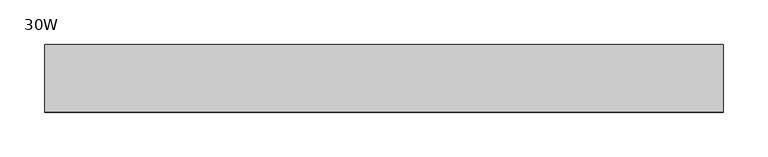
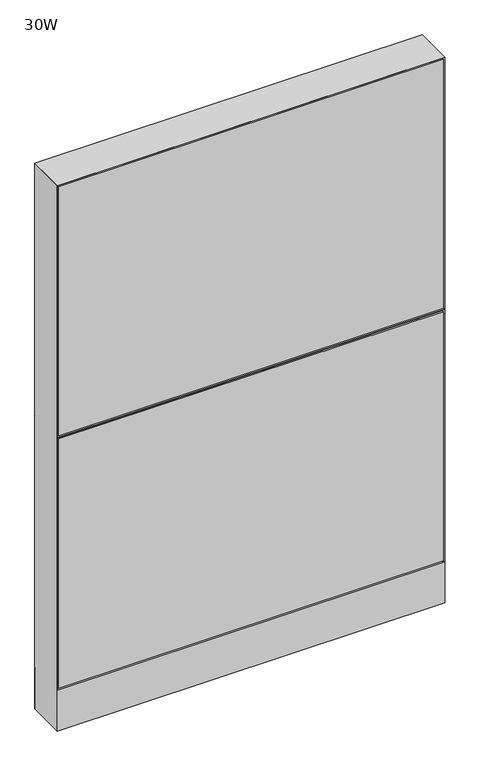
"""IFC4 building model written with IfcOpenShell, lengths in millimetres: furniture geometry, Steelcase - Montage - Frame - 45H - Enhanced Monolithic - Base Cavity : 30W."""

from ifc_helpers import new_model, si_unit, point, frame, frame_2d, origin, origin_with_axes, place, context, project, spatial, polyline, circle_curve, trimmed, segment, composite_curve, outline, extrude, faceted_brep, source, transform, mapped, element, save


def furniture_30w_7b13c61c(model_context):
    return source(origin(), model_context, "Body", "SolidModel", [
        faceted_brep([(-5.4e-06, 38.102627, 612.7750027), (6.3499917, 31.7526299, 619.1249997), (755.6500047, 31.7526299, 619.1249997), (762.0, 38.1026253, 612.7750044), (755.6500047, 31.7526299, 606.4250003), (6.3499917, 31.7526299, 606.4250003)], [[[0, 1, 2, 3]], [[3, 4, 5, 0]], [[1, 5, 4, 2]], [[0, 5, 1]], [[2, 4, 3]]]),
        extrude(outline(polyline([(3.175, 31.7500194), (3.175, 38.1000194), (758.825, 38.1000194), (758.825, 31.7500194), (3.175, 31.7500194)])), frame((0.0, 0.0, 92.075), z_axis=(0.0, 0.0, 1.0), x_axis=(1.0, 0.0, 0.0)), (0.0, 0.0, 1.0), 517.525),
        extrude(outline(polyline([(3.175, 31.7500194), (3.175, 38.1000194), (758.825, 38.1000194), (758.825, 31.7500194), (3.175, 31.7500194)])), frame((0.0, 0.0, 615.95), z_axis=(0.0, 0.0, 1.0), x_axis=(1.0, 0.0, 0.0)), (0.0, 0.0, 1.0), 517.525),
        faceted_brep([(0.0, -38.1026297, 612.775), (762.0, -38.1026297, 612.775), (755.6500047, -31.7526299, 619.1249997), (6.3499917, -31.7526299, 619.1249997), (6.3499917, -31.7526299, 606.4250003), (755.6500047, -31.7526299, 606.4250003)], [[[0, 1, 2, 3]], [[1, 0, 4, 5]], [[3, 2, 5, 4]], [[0, 3, 4]], [[2, 1, 5]]]),
        extrude(outline(polyline([(3.175, -31.7500194), (758.825, -31.7500194), (758.825, -38.1000194), (3.175, -38.1000194), (3.175, -31.7500194)])), frame((0.0, 0.0, 92.075), z_axis=(0.0, 0.0, 1.0), x_axis=(1.0, 0.0, 0.0)), (0.0, 0.0, 1.0), 517.525),
        extrude(outline(polyline([(3.175, -31.7500194), (758.825, -31.7500194), (758.825, -38.1000194), (3.175, -38.1000194), (3.175, -31.7500194)])), frame((0.0, 0.0, 615.95), z_axis=(0.0, 0.0, 1.0), x_axis=(1.0, 0.0, 0.0)), (0.0, 0.0, 1.0), 517.525),
        extrude(outline(polyline([(6.350003, -31.7499985), (755.649997, -31.7499985), (762.0, -38.1000015), (0.0, -38.1000015), (6.350003, -31.7499985)])), frame((0.0, 0.0, 4.064), z_axis=(0.0, 0.0, 1.0), x_axis=(1.0, 0.0, 0.0)), (0.0, 0.0, 1.0), 84.835997),
        extrude(outline(polyline([(6.3500002, 31.7500017), (0.0, 38.1000015), (762.0, 38.1000015), (755.6500002, 31.7500017), (6.3500002, 31.7500017)])), frame((0.0, 0.0, 4.064), z_axis=(0.0, 0.0, 1.0), x_axis=(1.0, 0.0, 0.0)), (0.0, 0.0, 1.0), 84.835997),
        faceted_brep([(762.0, -38.1000015, 1136.65), (0.0, -38.1000015, 1136.65), (6.3500484, -31.749953, 1130.2999516), (755.6499516, -31.749953, 1130.2999516), (6.3500484, 31.749953, 1130.2999516), (755.6499516, 31.749953, 1130.2999516), (0.0, 38.1000015, 1136.65), (762.0, 38.1000015, 1136.65)], [[[0, 1, 2, 3]], [[3, 2, 4, 5]], [[6, 7, 5, 4]], [[1, 0, 7, 6]], [[2, 1, 6, 4]], [[0, 3, 5, 7]]]),
        extrude(outline(composite_curve([segment(trimmed(circle_curve(frame_2d((44.45, 0.0)), 15.24), [point((29.21, 0.0))], [point((59.69, 0.0))], False, "CARTESIAN"), True, "CONTINUOUS"), segment(trimmed(circle_curve(frame_2d((44.45, 0.0)), 15.24), [point((59.69, 0.0))], [point((29.21, 0.0))], False, "CARTESIAN"), True, "CONTINUOUS")], self_intersect=False)), origin_with_axes(), (0.0, 0.0, 1.0), 4.064),
        extrude(outline(composite_curve([segment(trimmed(circle_curve(frame_2d((717.55, 0.0)), 15.24), [point((702.31, 0.0))], [point((732.79, 0.0))], False, "CARTESIAN"), True, "CONTINUOUS"), segment(trimmed(circle_curve(frame_2d((717.55, 0.0)), 15.24), [point((732.79, 0.0))], [point((702.31, 0.0))], False, "CARTESIAN"), True, "CONTINUOUS")], self_intersect=False)), origin_with_axes(), (0.0, 0.0, 1.0), 4.064),
        faceted_brep([(762.0, -38.1000106, 4.064), (762.0, 38.1000015, 4.064), (762.0, 38.1000015, 1136.65), (762.0, -38.1000106, 1136.6499637), (0.0, 38.1000015, 4.064), (0.0, -38.1000015, 4.064), (0.0, -38.1000015, 1136.65), (0.0, 38.1000015, 1136.65), (755.6499879, 31.7500017, 600.202), (6.35, 31.7500017, 600.202), (6.3499998, 31.7500017, 612.902), (755.6499879, 31.7500017, 612.902), (6.35, -31.7499985, 612.902), (755.6499879, -31.7499985, 612.902), (6.350003, -31.7499985, 600.202), (755.6499879, -31.7499985, 600.202), (6.35, 31.7500015, 4.064), (6.35, -31.7500015, 4.064), (755.6499879, 31.7499894, 4.064), (755.6499879, -31.7499985, 4.064), (6.35, 31.7500015, 1130.3), (6.35, -31.7500015, 1130.3), (755.6499879, -31.7499985, 1130.2999516), (755.6499879, 31.7499895, 1130.2999516)], [[[0, 1, 2, 3]], [[4, 5, 6, 7]], [[8, 9, 10, 11]], [[11, 10, 12, 13]], [[13, 12, 14, 15]], [[9, 8, 15, 14]], [[16, 17, 5, 4]], [[18, 1, 0, 19]], [[16, 4, 7, 20, 10, 9]], [[5, 17, 14, 12, 21, 6]], [[17, 16, 9, 14]], [[12, 10, 20, 21]], [[18, 19, 15, 8]], [[11, 13, 22, 23]], [[19, 0, 3, 22, 13, 15]], [[1, 18, 8, 11, 23, 2]], [[7, 6, 21, 20]], [[3, 2, 23, 22]]]),
    ])


if __name__ == "__main__":
    model = new_model("IFC4")
    model_context = context("Model", 3, world=origin())
    ifc_project = project(units=[si_unit("LENGTHUNIT", "METRE", prefix="MILLI")], contexts=[model_context])
    site = spatial("IfcSite", under=ifc_project)
    building = spatial("IfcBuilding", under=site)
    placement = place(None, origin())
    furniture_30w_shape = furniture_30w_7b13c61c(model_context)
    element("IfcFurniture", 1, ObjectType="Steelcase - Montage - Frame - 45H - Enhanced Monolithic - Base Cavity : 30W", at=placement, inside=building, context=model_context, shape_type="MappedRepresentation", body=[
        mapped(furniture_30w_shape, transform((0.0, 0.0, 0.0), x_axis=(1.0, 0.0, 0.0), y_axis=(0.0, 1.0, 0.0), z_axis=(0.0, 0.0, 1.0))),
    ])
    save(model, "model.ifc")
